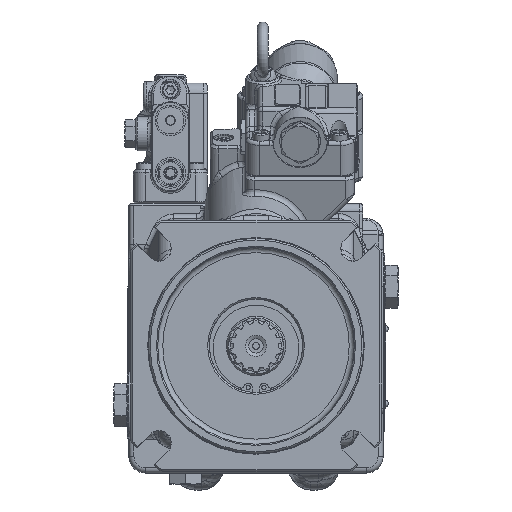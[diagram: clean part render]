
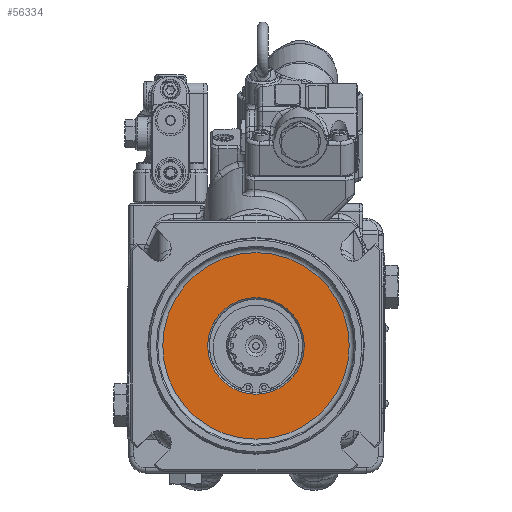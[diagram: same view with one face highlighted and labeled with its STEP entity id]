
A CAD part, front view. The second image highlights one B-rep face of the part: STEP entity #56334.
In plain terms, the highlighted planar face has unit normal (0, -1, 0).
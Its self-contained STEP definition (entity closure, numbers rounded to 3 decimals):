
#3700=FACE_BOUND('',#9962,.T.);
#6423=FACE_OUTER_BOUND('',#9961,.T.);
#9961=EDGE_LOOP('',(#46513));
#9962=EDGE_LOOP('',(#46514));
#21199=CIRCLE('',#61301,28.5);
#21257=CIRCLE('',#61435,55.);
#25164=VERTEX_POINT('',#108488);
#25327=VERTEX_POINT('',#108994);
#32472=EDGE_CURVE('',#25164,#25164,#21199,.T.);
#32685=EDGE_CURVE('',#25327,#25327,#21257,.T.);
#46513=ORIENTED_EDGE('',*,*,#32685,.F.);
#46514=ORIENTED_EDGE('',*,*,#32472,.T.);
#53492=PLANE('',#61439);
#56334=ADVANCED_FACE('',(#6423,#3700),#53492,.F.);
#61301=AXIS2_PLACEMENT_3D('',#108490,#72606,#72607);
#61435=AXIS2_PLACEMENT_3D('',#108996,#72997,#72998);
#61439=AXIS2_PLACEMENT_3D('',#109002,#73006,#73007);
#72606=DIRECTION('center_axis',(0.,1.,0.));
#72607=DIRECTION('ref_axis',(0.,0.,1.));
#72997=DIRECTION('center_axis',(0.,1.,0.));
#72998=DIRECTION('ref_axis',(-1.,0.,0.));
#73006=DIRECTION('center_axis',(0.,1.,0.));
#73007=DIRECTION('ref_axis',(0.,0.,1.));
#108488=CARTESIAN_POINT('',(7.501,-88.16,-45.318));
#108490=CARTESIAN_POINT('Origin',(7.501,-88.16,-16.818));
#108994=CARTESIAN_POINT('',(7.501,-88.16,38.182));
#108996=CARTESIAN_POINT('Origin',(7.501,-88.16,-16.818));
#109002=CARTESIAN_POINT('Origin',(7.501,-88.16,-16.818));
